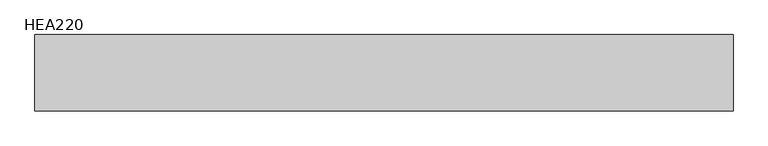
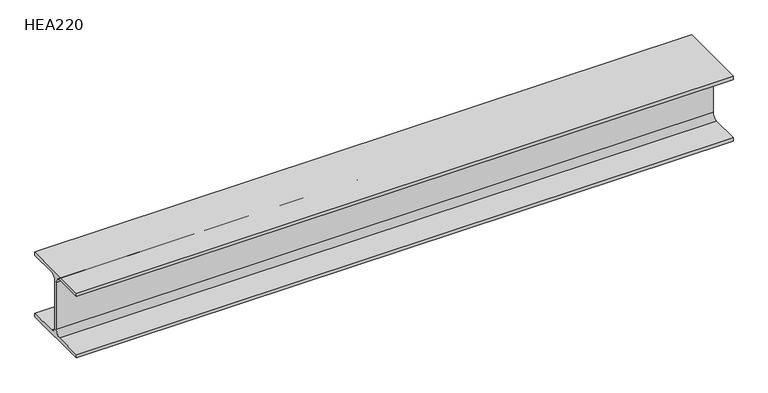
"""IFC4 building model written with IfcOpenShell, lengths in millimetres: beam geometry, HE-A : HEA220."""

import ifcopenshell
import ifcopenshell.guid

model = None  # the IFC model being written
_history = None  # IfcOwnerHistory: only IFC2X3 demands one
_inside = {}  # id of a spatial element -> (the spatial element, [elements in it])
_under = {}  # id of a project, library or spatial element -> (it, [spatial elements below it])
_declared = {}  # id of a project -> (the project, [libraries it declares])
_typed = {}  # id of a type object -> (the type object, [elements of that type])
_made_of = {}  # id of a material, layer set ... -> (it, [elements and type objects made of it])


def new_model(schema):
    """Start an empty IFC model of exactly this schema.

    Asked for "IFC4X3", IfcOpenShell would pick the latest addendum, in which some entities
    have other attributes; the version numbers below select the first issue.
    IFC2X3 requires an IfcOwnerHistory on every rooted entity: one is made here for all.
    """
    global model, _history
    if schema == "IFC4X3":
        model = ifcopenshell.file(schema_version=(4, 3, 0, 0))
    else:
        model = ifcopenshell.file(schema=schema)
    _inside.clear()
    _under.clear()
    _declared.clear()
    _typed.clear()
    _made_of.clear()
    _history = None
    if model.schema == "IFC2X3":
        org = make("IfcOrganization", Name="unknown")
        user = make(
            "IfcPersonAndOrganization",
            ThePerson=make("IfcPerson", FamilyName="unknown"),
            TheOrganization=org,
        )
        app = make(
            "IfcApplication",
            ApplicationDeveloper=org,
            Version="unknown",
            ApplicationFullName="unknown",
            ApplicationIdentifier="unknown",
        )
        _history = make(
            "IfcOwnerHistory",
            OwningUser=user,
            OwningApplication=app,
            ChangeAction="ADDED",
            CreationDate=0,
        )
    return model


def make(cls, **values):
    """One entity of the class cls with the attributes given. An attribute that is None is left unset."""
    return model.create_entity(
        cls, **{name: value for name, value in values.items() if value is not None}
    )


def rooted(cls, **values):
    """An entity with a GlobalId (a new one), such as an element, a storey or a relation."""
    return make(cls, GlobalId=ifcopenshell.guid.new(), OwnerHistory=_history, **values)


def si_unit(unit_type, name, prefix=None):
    """IfcSIUnit, for example si_unit("LENGTHUNIT", "METRE", prefix="MILLI")."""
    return make("IfcSIUnit", UnitType=unit_type, Prefix=prefix, Name=name)


def assignment(units):
    """IfcUnitAssignment: the units of a project."""
    return None if units is None else make("IfcUnitAssignment", Units=units)


def point(xyz):
    """IfcCartesianPoint."""
    return None if xyz is None else make("IfcCartesianPoint", Coordinates=xyz)


def direction(xyz):
    """IfcDirection."""
    return None if xyz is None else make("IfcDirection", DirectionRatios=xyz)


def frame(location, z_axis=None, x_axis=None):
    """IfcAxis2Placement3D, a coordinate frame: its origin and axes. An axis left out is left unset."""
    return make(
        "IfcAxis2Placement3D",
        Location=point(location),
        Axis=direction(z_axis),
        RefDirection=direction(x_axis),
    )


def frame_2d(location, x_axis=None):
    """IfcAxis2Placement2D, a coordinate frame in the plane: its origin and x axis."""
    return make(
        "IfcAxis2Placement2D", Location=point(location), RefDirection=direction(x_axis)
    )


def origin():
    """The frame at (0, 0, 0) with its axes left unset."""
    return frame((0.0, 0.0, 0.0))


def place(relative_to, where):
    """IfcLocalPlacement: puts the frame where relative to a parent placement (None: the world)."""
    return make(
        "IfcLocalPlacement", PlacementRelTo=relative_to, RelativePlacement=where
    )


def context(
    kind, dimensions, precision=None, world=None, true_north=None, identifier=None
):
    """IfcGeometricRepresentationContext, for example the 3D "Model" context."""
    return make(
        "IfcGeometricRepresentationContext",
        ContextIdentifier=identifier,
        ContextType=kind,
        CoordinateSpaceDimension=dimensions,
        Precision=precision,
        WorldCoordinateSystem=world,
        TrueNorth=true_north,
    )


def project(units=None, contexts=None):
    """IfcProject with its units and contexts."""
    return rooted(
        "IfcProject",
        Name="project",
        RepresentationContexts=contexts,
        UnitsInContext=assignment(units),
    )


def spatial(cls, under=None, at=None, **own):
    """A site, building, storey or space (cls), placed at a placement, below another one or the project."""
    s = rooted(cls, ObjectPlacement=at, **own)
    if under is not None:
        _under.setdefault(under.id(), (under, []))[1].append(s)
    return s


def polyline(points):
    """IfcPolyline through the points."""
    return make("IfcPolyline", Points=[point(p) for p in points])


def circle_curve(where, radius):
    """IfcCircle in the frame where."""
    return make("IfcCircle", Position=where, Radius=radius)


def trimmed(basis, trim1, trim2, sense, master):
    """IfcTrimmedCurve: the piece of a basis curve between two trims."""
    return make(
        "IfcTrimmedCurve",
        BasisCurve=basis,
        Trim1=trim1,
        Trim2=trim2,
        SenseAgreement=sense,
        MasterRepresentation=master,
    )


def segment(curve, same_sense, transition):
    """IfcCompositeCurveSegment."""
    return make(
        "IfcCompositeCurveSegment",
        Transition=transition,
        SameSense=same_sense,
        ParentCurve=curve,
    )


def composite_curve(segments, self_intersect=None):
    """IfcCompositeCurve: segments joined end to end."""
    return make("IfcCompositeCurve", Segments=segments, SelfIntersect=self_intersect)


def outline(outer, holes=None, kind="AREA"):
    """IfcArbitraryClosedProfileDef: a profile drawn as a closed curve; with holes, ...WithVoids."""
    if holes is None:
        return make("IfcArbitraryClosedProfileDef", ProfileType=kind, OuterCurve=outer)
    return make(
        "IfcArbitraryProfileDefWithVoids",
        ProfileType=kind,
        OuterCurve=outer,
        InnerCurves=holes,
    )


def extrude(swept, where, along, depth):
    """IfcExtrudedAreaSolid: the profile swept, set in the frame where, extruded along a direction by depth."""
    return make(
        "IfcExtrudedAreaSolid",
        SweptArea=swept,
        Position=where,
        ExtrudedDirection=direction(along),
        Depth=depth,
    )


def shape(context_of_items, identifier, shape_type, items):
    """IfcShapeRepresentation: the items that make up one representation, for example the "Body"."""
    return make(
        "IfcShapeRepresentation",
        ContextOfItems=context_of_items,
        RepresentationIdentifier=identifier,
        RepresentationType=shape_type,
        Items=items,
    )


def source(mapping_origin, context_of_items, identifier, shape_type, items):
    """IfcRepresentationMap: a shape defined once, which mapped items show again and again."""
    return make(
        "IfcRepresentationMap",
        MappingOrigin=mapping_origin,
        MappedRepresentation=shape(context_of_items, identifier, shape_type, items),
    )


def transform(
    local_origin,
    x_axis=None,
    y_axis=None,
    z_axis=None,
    scale=None,
    scale2=None,
    scale3=None,
    uniform=True,
):
    """IfcCartesianTransformationOperator3D, or its non-uniform kind. x_axis, y_axis, z_axis: its Axis1, 2, 3."""
    if uniform:
        return make(
            "IfcCartesianTransformationOperator3D",
            Axis1=direction(x_axis),
            Axis2=direction(y_axis),
            LocalOrigin=point(local_origin),
            Scale=scale,
            Axis3=direction(z_axis),
        )
    return make(
        "IfcCartesianTransformationOperator3DnonUniform",
        Axis1=direction(x_axis),
        Axis2=direction(y_axis),
        LocalOrigin=point(local_origin),
        Scale=scale,
        Axis3=direction(z_axis),
        Scale2=scale2,
        Scale3=scale3,
    )


def mapped(mapping_source, mapping_target):
    """IfcMappedItem: shows the shape of a source again, moved by a transform."""
    return make(
        "IfcMappedItem", MappingSource=mapping_source, MappingTarget=mapping_target
    )


def made_of(thing, what):
    """Note that an element or type object is made of a material, layer set ...; save() writes the relation."""
    if what is not None:
        _made_of.setdefault(what.id(), (what, []))[1].append(thing)
    return thing


def element(
    cls,
    number,
    at=None,
    inside=None,
    cuts=None,
    type_object=None,
    material=None,
    context=None,
    identifier="Body",
    shape_type=None,
    held_by="IfcProductDefinitionShape",
    body=None,
    shapes=None,
    **own,
):
    """One element of the class cls, such as IfcWall. Its Tag is "e" and its number.

    at: its placement. inside: the storey or other place that contains it. cuts: it is an
    opening in that element (IfcRelVoidsElement). A single representation is given by context,
    identifier, shape_type and body (its items); several are given by shapes. held_by: the class
    of the entity that holds the representations. save() writes the other relations.
    """
    e = rooted(cls, Tag="e%d" % number, ObjectPlacement=at, **own)
    if body is not None:
        shapes = [shape(context, identifier, shape_type, body)]
    if shapes is not None:
        e.Representation = make(held_by, Representations=shapes)
    if inside is not None:
        _inside.setdefault(inside.id(), (inside, []))[1].append(e)
    if cuts is not None:
        rooted(
            "IfcRelVoidsElement", RelatingBuildingElement=cuts, RelatedOpeningElement=e
        )
    if type_object is not None:
        _typed.setdefault(type_object.id(), (type_object, []))[1].append(e)
    return made_of(e, material)


def aggregate(whole, parts):
    """IfcRelAggregates: a whole, such as a stair, and the parts it consists of."""
    return rooted("IfcRelAggregates", RelatingObject=whole, RelatedObjects=parts)


def save(model, path):
    """Write the relations noted so far, then the file.

    IfcRelAggregates (storeys below a building ...), IfcRelContainedInSpatialStructure (elements
    in a storey), IfcRelDefinesByType, IfcRelAssociatesMaterial and IfcRelDeclares: one each for
    every whole, place, type object, material and project.
    """
    for whole, parts in _under.values():
        aggregate(whole, parts)
    for where, things in _inside.values():
        rooted(
            "IfcRelContainedInSpatialStructure",
            RelatedElements=things,
            RelatingStructure=where,
        )
    for kind, things in _typed.values():
        rooted("IfcRelDefinesByType", RelatedObjects=things, RelatingType=kind)
    for what, things in _made_of.values():
        rooted("IfcRelAssociatesMaterial", RelatedObjects=things, RelatingMaterial=what)
    for by, libraries in _declared.values():
        rooted("IfcRelDeclares", RelatingContext=by, RelatedDefinitions=libraries)
    model.write(path)


def hea220_72724352(model_context):
    return source(origin(), model_context, "Body", "SweptSolid", [
        extrude(outline(composite_curve([segment(polyline([(110.0, -94.0), (110.0, -105.0), (-110.0, -105.0), (-110.0, -94.0), (-21.5, -94.0)]), True, "CONTINUOUS"), segment(trimmed(circle_curve(frame_2d((-21.5, -76.0)), 18.0), [point((-21.5, -94.0))], [point((-3.5, -76.0))], True, "CARTESIAN"), True, "CONTINUOUS"), segment(polyline([(-3.5, -76.0), (-3.5, 76.0)]), True, "CONTINUOUS"), segment(trimmed(circle_curve(frame_2d((-21.5, 76.0)), 18.0), [point((-3.5, 76.0))], [point((-21.5, 94.0))], True, "CARTESIAN"), True, "CONTINUOUS"), segment(polyline([(-21.5, 94.0), (-110.0, 94.0), (-110.0, 105.0), (110.0, 105.0), (110.0, 94.0), (21.5, 94.0)]), True, "CONTINUOUS"), segment(trimmed(circle_curve(frame_2d((21.5, 76.0)), 18.0), [point((21.5, 94.0))], [point((3.5, 76.0))], True, "CARTESIAN"), True, "CONTINUOUS"), segment(polyline([(3.5, 76.0), (3.5, -76.0)]), True, "CONTINUOUS"), segment(trimmed(circle_curve(frame_2d((21.5, -76.0)), 18.0), [point((3.5, -76.0))], [point((21.5, -94.0))], True, "CARTESIAN"), True, "CONTINUOUS"), segment(polyline([(21.5, -94.0), (110.0, -94.0)]), True, "CONTINUOUS")], self_intersect=False)), frame((-1005.3, 0.0, 0.0), z_axis=(1.0, 0.0, 0.0), x_axis=(0.0, 1.0, 0.0)), (0.0, 0.0, 1.0), 2010.6),
    ])


if __name__ == "__main__":
    model = new_model("IFC4")
    model_context = context("Model", 3, world=origin())
    ifc_project = project(units=[si_unit("LENGTHUNIT", "METRE", prefix="MILLI")], contexts=[model_context])
    site = spatial("IfcSite", under=ifc_project)
    building = spatial("IfcBuilding", under=site)
    placement = place(None, origin())
    hea220_shape = hea220_72724352(model_context)
    element("IfcBeam", 1, ObjectType="HE-A : HEA220", at=placement, inside=building, context=model_context, shape_type="MappedRepresentation", body=[
        mapped(hea220_shape, transform((0.0, 0.0, 0.0), x_axis=(1.0, 0.0, 0.0), y_axis=(0.0, 1.0, 0.0), z_axis=(0.0, 0.0, 1.0))),
    ])
    save(model, "model.ifc")
